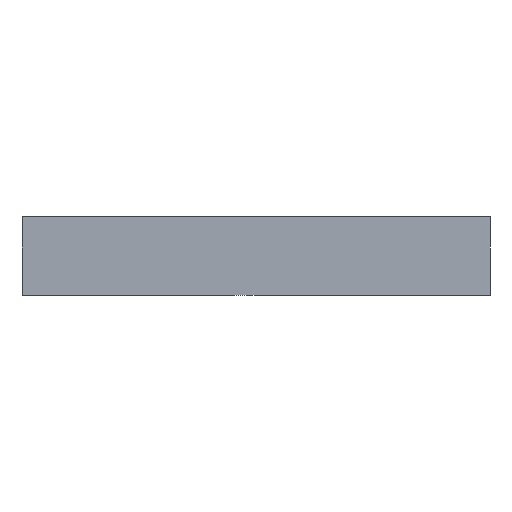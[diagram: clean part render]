
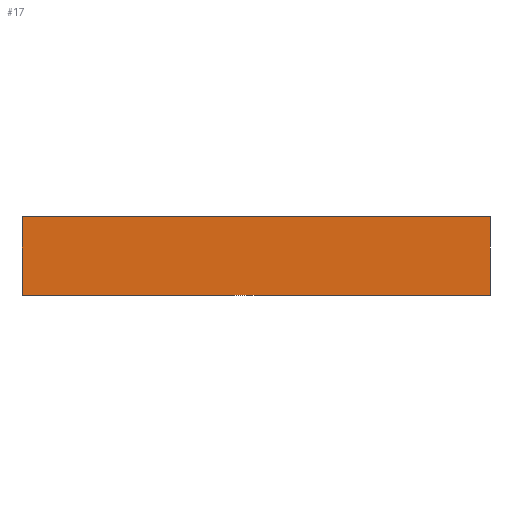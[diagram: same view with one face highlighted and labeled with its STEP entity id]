
A CAD part, front view. The second image highlights one B-rep face of the part: STEP entity #17.
In plain terms, the highlighted planar face has unit normal (0, -1, 0).
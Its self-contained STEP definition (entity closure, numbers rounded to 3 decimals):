
#17 = ADVANCED_FACE('',(#18),#32,.T.);
#18 = FACE_BOUND('',#19,.T.);
#19 = EDGE_LOOP('',(#20,#55,#83,#111));
#20 = ORIENTED_EDGE('',*,*,#21,.T.);
#21 = EDGE_CURVE('',#22,#24,#26,.T.);
#22 = VERTEX_POINT('',#23);
#23 = CARTESIAN_POINT('',(-20.,-11.745,3.333
    ));
#24 = VERTEX_POINT('',#25);
#25 = CARTESIAN_POINT('',(-20.,-11.745,
    -3.333));
#26 = SURFACE_CURVE('',#27,(#31,#43),.PCURVE_S1.);
#27 = LINE('',#28,#29);
#28 = CARTESIAN_POINT('',(-20.,-11.745,3.333
    ));
#29 = VECTOR('',#30,1.);
#30 = DIRECTION('',(0.,0.,-1.));
#31 = PCURVE('',#32,#37);
#32 = PLANE('',#33);
#33 = AXIS2_PLACEMENT_3D('',#34,#35,#36);
#34 = CARTESIAN_POINT('',(0.,-11.745,0.));
#35 = DIRECTION('',(0.,-1.,0.));
#36 = DIRECTION('',(-0.,0.,1.));
#37 = DEFINITIONAL_REPRESENTATION('',(#38),#42);
#38 = LINE('',#39,#40);
#39 = CARTESIAN_POINT('',(3.333,20.));
#40 = VECTOR('',#41,1.);
#41 = DIRECTION('',(-1.,-0.));
#42 = ( GEOMETRIC_REPRESENTATION_CONTEXT(2) 
PARAMETRIC_REPRESENTATION_CONTEXT() REPRESENTATION_CONTEXT('2D SPACE',''
  ) );
#43 = PCURVE('',#44,#49);
#44 = PLANE('',#45);
#45 = AXIS2_PLACEMENT_3D('',#46,#47,#48);
#46 = CARTESIAN_POINT('',(-20.,-5.078,0.));
#47 = DIRECTION('',(1.,0.,0.));
#48 = DIRECTION('',(0.,0.,1.));
#49 = DEFINITIONAL_REPRESENTATION('',(#50),#54);
#50 = LINE('',#51,#52);
#51 = CARTESIAN_POINT('',(3.333,6.667));
#52 = VECTOR('',#53,1.);
#53 = DIRECTION('',(-1.,0.));
#54 = ( GEOMETRIC_REPRESENTATION_CONTEXT(2) 
PARAMETRIC_REPRESENTATION_CONTEXT() REPRESENTATION_CONTEXT('2D SPACE',''
  ) );
#55 = ORIENTED_EDGE('',*,*,#56,.T.);
#56 = EDGE_CURVE('',#24,#57,#59,.T.);
#57 = VERTEX_POINT('',#58);
#58 = CARTESIAN_POINT('',(20.,-11.745,
    -3.333));
#59 = SURFACE_CURVE('',#60,(#64,#71),.PCURVE_S1.);
#60 = LINE('',#61,#62);
#61 = CARTESIAN_POINT('',(-20.,-11.745,
    -3.333));
#62 = VECTOR('',#63,1.);
#63 = DIRECTION('',(1.,0.,0.));
#64 = PCURVE('',#32,#65);
#65 = DEFINITIONAL_REPRESENTATION('',(#66),#70);
#66 = LINE('',#67,#68);
#67 = CARTESIAN_POINT('',(-3.333,20.));
#68 = VECTOR('',#69,1.);
#69 = DIRECTION('',(0.,-1.));
#70 = ( GEOMETRIC_REPRESENTATION_CONTEXT(2) 
PARAMETRIC_REPRESENTATION_CONTEXT() REPRESENTATION_CONTEXT('2D SPACE',''
  ) );
#71 = PCURVE('',#72,#77);
#72 = PLANE('',#73);
#73 = AXIS2_PLACEMENT_3D('',#74,#75,#76);
#74 = CARTESIAN_POINT('',(0.777,5.214,-3.333)
  );
#75 = DIRECTION('',(0.,0.,1.));
#76 = DIRECTION('',(0.,1.,0.));
#77 = DEFINITIONAL_REPRESENTATION('',(#78),#82);
#78 = LINE('',#79,#80);
#79 = CARTESIAN_POINT('',(-16.958,20.777));
#80 = VECTOR('',#81,1.);
#81 = DIRECTION('',(0.,-1.));
#82 = ( GEOMETRIC_REPRESENTATION_CONTEXT(2) 
PARAMETRIC_REPRESENTATION_CONTEXT() REPRESENTATION_CONTEXT('2D SPACE',''
  ) );
#83 = ORIENTED_EDGE('',*,*,#84,.T.);
#84 = EDGE_CURVE('',#57,#85,#87,.T.);
#85 = VERTEX_POINT('',#86);
#86 = CARTESIAN_POINT('',(20.,-11.745,3.333
    ));
#87 = SURFACE_CURVE('',#88,(#92,#99),.PCURVE_S1.);
#88 = LINE('',#89,#90);
#89 = CARTESIAN_POINT('',(20.,-11.745,
    -3.333));
#90 = VECTOR('',#91,1.);
#91 = DIRECTION('',(0.,0.,1.));
#92 = PCURVE('',#32,#93);
#93 = DEFINITIONAL_REPRESENTATION('',(#94),#98);
#94 = LINE('',#95,#96);
#95 = CARTESIAN_POINT('',(-3.333,-20.));
#96 = VECTOR('',#97,1.);
#97 = DIRECTION('',(1.,0.));
#98 = ( GEOMETRIC_REPRESENTATION_CONTEXT(2) 
PARAMETRIC_REPRESENTATION_CONTEXT() REPRESENTATION_CONTEXT('2D SPACE',''
  ) );
#99 = PCURVE('',#100,#105);
#100 = PLANE('',#101);
#101 = AXIS2_PLACEMENT_3D('',#102,#103,#104);
#102 = CARTESIAN_POINT('',(20.,-7.3,
    -1.111));
#103 = DIRECTION('',(1.,0.,0.));
#104 = DIRECTION('',(0.,0.,1.));
#105 = DEFINITIONAL_REPRESENTATION('',(#106),#110);
#106 = LINE('',#107,#108);
#107 = CARTESIAN_POINT('',(-2.222,4.444));
#108 = VECTOR('',#109,1.);
#109 = DIRECTION('',(1.,0.));
#110 = ( GEOMETRIC_REPRESENTATION_CONTEXT(2) 
PARAMETRIC_REPRESENTATION_CONTEXT() REPRESENTATION_CONTEXT('2D SPACE',''
  ) );
#111 = ORIENTED_EDGE('',*,*,#112,.T.);
#112 = EDGE_CURVE('',#85,#22,#113,.T.);
#113 = SURFACE_CURVE('',#114,(#118,#125),.PCURVE_S1.);
#114 = LINE('',#115,#116);
#115 = CARTESIAN_POINT('',(20.,-11.745,
    3.333));
#116 = VECTOR('',#117,1.);
#117 = DIRECTION('',(-1.,0.,0.));
#118 = PCURVE('',#32,#119);
#119 = DEFINITIONAL_REPRESENTATION('',(#120),#124);
#120 = LINE('',#121,#122);
#121 = CARTESIAN_POINT('',(3.333,-20.));
#122 = VECTOR('',#123,1.);
#123 = DIRECTION('',(0.,1.));
#124 = ( GEOMETRIC_REPRESENTATION_CONTEXT(2) 
PARAMETRIC_REPRESENTATION_CONTEXT() REPRESENTATION_CONTEXT('2D SPACE',''
  ) );
#125 = PCURVE('',#126,#131);
#126 = PLANE('',#127);
#127 = AXIS2_PLACEMENT_3D('',#128,#129,#130);
#128 = CARTESIAN_POINT('',(0.777,5.214,3.333)
  );
#129 = DIRECTION('',(0.,0.,1.));
#130 = DIRECTION('',(0.,1.,0.));
#131 = DEFINITIONAL_REPRESENTATION('',(#132),#136);
#132 = LINE('',#133,#134);
#133 = CARTESIAN_POINT('',(-16.958,-19.223));
#134 = VECTOR('',#135,1.);
#135 = DIRECTION('',(0.,1.));
#136 = ( GEOMETRIC_REPRESENTATION_CONTEXT(2) 
PARAMETRIC_REPRESENTATION_CONTEXT() REPRESENTATION_CONTEXT('2D SPACE',''
  ) );
